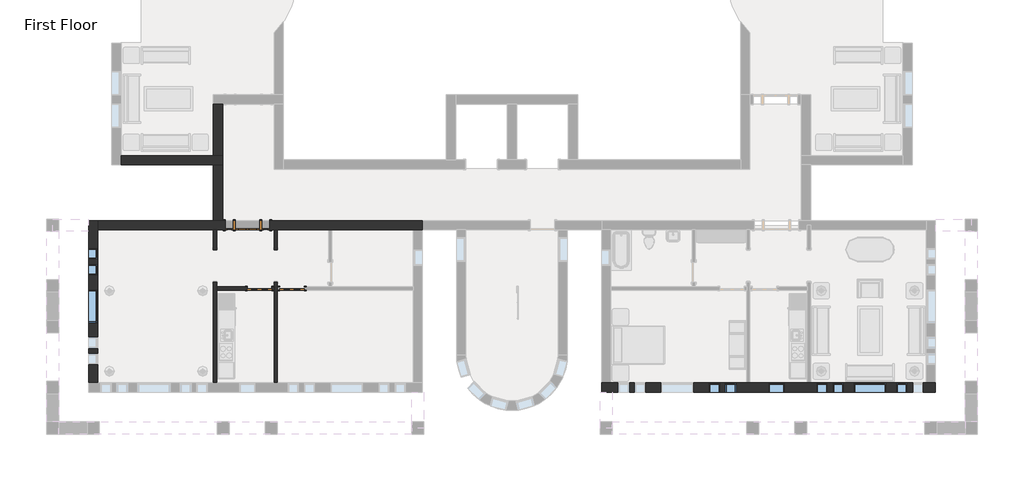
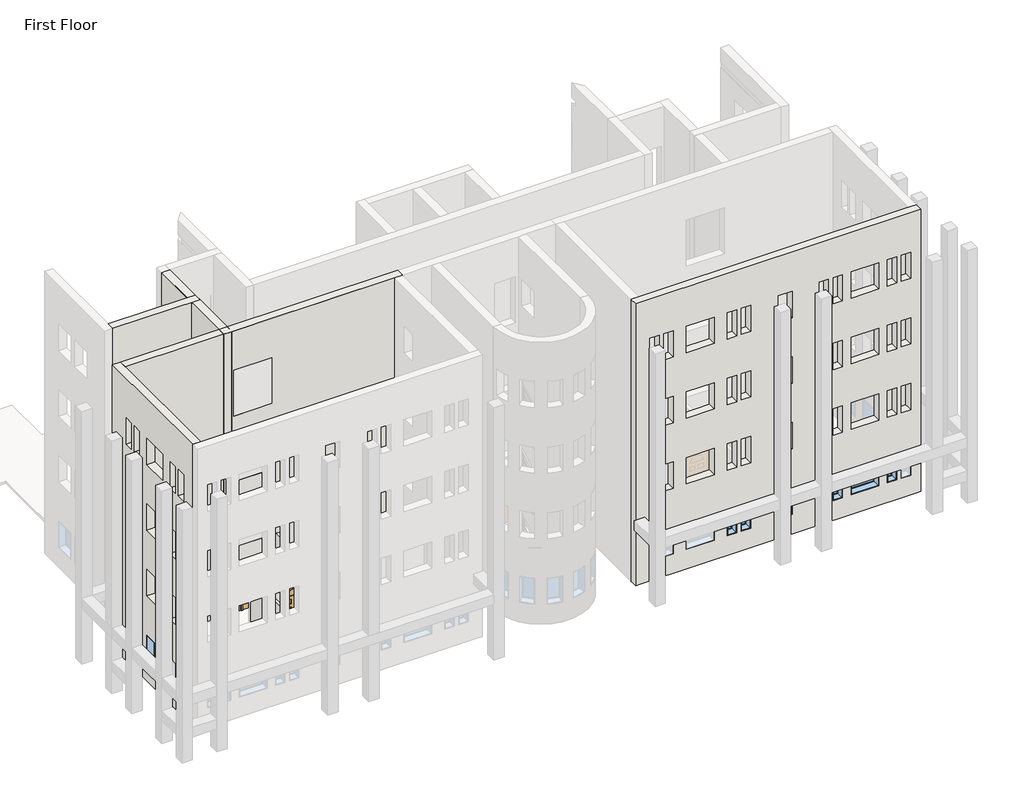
# One storey, part 3 of 24: 10 windows, 9 walls, 3 doors.
"""IFC4 building model written with IfcOpenShell, lengths in millimetres."""

from ifc_helpers import new_model, si_unit, frame, origin, place, context, project, spatial, polyline, outline, extrude, faceted_brep, transform, mapped, element, save
from components import door_829da954, door_2e3b4da2, door_dba5aa2e, window_da97879f, window_d61ef850, window_ed80354a, window_6eb97611, window_d89bf842

model = new_model("IFC4")

# Units and contexts
model_context = context("Model", 3, world=origin())
ifc_project = project(units=[si_unit("LENGTHUNIT", "METRE", prefix="MILLI")], contexts=[model_context])

# Site, building, storey
site = spatial("IfcSite", under=ifc_project)
building = spatial("IfcBuilding", under=site)
storey = spatial("IfcBuildingStorey", under=building, Name="First Floor", Elevation=0.0)

# Doors
placement = place(None, origin())
door_shape = door_829da954(model_context)
element("IfcDoor", 1, ObjectType="Single-Decorative 2 : 36\" x 84\"", at=placement, inside=storey, context=model_context, shape_type="MappedRepresentation", body=[
    mapped(door_shape, transform((-24420.4839563, -30331.8808133, 0.0), x_axis=(1.0, 0.0, 0.0), y_axis=(0.0, 1.0, 0.0), z_axis=(0.0, 0.0, 1.0))),
])
door_2_shape = door_2e3b4da2(model_context)
element("IfcDoor", 2, ObjectType="Single-Decorative 2 : 36\" x 84\"", at=placement, inside=storey, context=model_context, shape_type="MappedRepresentation", body=[
    mapped(door_2_shape, transform((-23201.2839563, -30331.8808133, 0.0), x_axis=(-1.0, 0.0, 0.0), y_axis=(0.0, -1.0, 0.0), z_axis=(0.0, 0.0, 1.0))),
])
door_3_shape = door_dba5aa2e(model_context)
element("IfcDoor", 3, ObjectType="Single-Raised Panel with Sidelights : 36\" x 84\"", at=placement, inside=storey, context=model_context, shape_type="MappedRepresentation", body=[
    mapped(door_3_shape, transform((-24877.6839563, -27958.5683133, 0.0), x_axis=(1.0, 0.0, 0.0), y_axis=(0.0, 1.0, 0.0), z_axis=(0.0, 0.0, 1.0))),
])

# Walls
element("IfcWall", 4, ObjectType="Exterior - Brick on Mtl. Stud", at=placement, inside=storey, context=model_context, shape_type="Brep", body=[
    faceted_brep([(-11569.6714563, -34230.7808133, 0.0), (-11382.3464563, -34230.7808133, 0.0), (787.4285437, -34230.7808133, 0.0), (974.7535437, -34230.7808133, 0.0), (974.7535437, -34230.7808133, 13106.4), (-11569.6714563, -34230.7808133, 13106.4), (-5297.4589563, -34230.7808133, 2133.6), (-4687.8589563, -34230.7808133, 2133.6), (-4687.8589563, -34230.7808133, 914.4), (-5297.4589563, -34230.7808133, 914.4), (-9336.0589563, -34230.7808133, 2133.6), (-8116.8589563, -34230.7808133, 2133.6), (-8116.8589563, -34230.7808133, 914.4), (-9336.0589563, -34230.7808133, 914.4), (-2097.0589563, -34230.7808133, 2133.6), (-877.8589563, -34230.7808133, 2133.6), (-877.8589563, -34230.7808133, 914.4), (-2097.0589563, -34230.7808133, 914.4), (-10936.2589563, -34230.7808133, 2133.6), (-10529.8589563, -34230.7808133, 2133.6), (-10529.8589563, -34230.7808133, 914.4), (-10936.2589563, -34230.7808133, 914.4), (-10326.6589563, -34230.7808133, 2133.6), (-9920.2589563, -34230.7808133, 2133.6), (-9920.2589563, -34230.7808133, 914.4), (-10326.6589563, -34230.7808133, 914.4), (-6516.6589563, -34230.7808133, 2133.6), (-6516.6589563, -34230.7808133, 914.4), (-6923.0589563, -34230.7808133, 914.4), (-6923.0589563, -34230.7808133, 2133.6), (-7126.2589563, -34230.7808133, 2133.6), (-7126.2589563, -34230.7808133, 914.4), (-7532.6589563, -34230.7808133, 914.4), (-7532.6589563, -34230.7808133, 2133.6), (-3494.0589563, -34230.7808133, 2133.6), (-3087.6589563, -34230.7808133, 2133.6), (-3087.6589563, -34230.7808133, 914.4), (-3494.0589563, -34230.7808133, 914.4), (-2884.4589563, -34230.7808133, 2133.6), (-2478.0589563, -34230.7808133, 2133.6), (-2478.0589563, -34230.7808133, 914.4), (-2884.4589563, -34230.7808133, 914.4), (519.1410437, -34230.7808133, 2133.6), (519.1410437, -34230.7808133, 914.4), (112.7410437, -34230.7808133, 914.4), (112.7410437, -34230.7808133, 2133.6), (-90.4589563, -34230.7808133, 2133.6), (-90.4589563, -34230.7808133, 914.4), (-496.8589563, -34230.7808133, 914.4), (-496.8589563, -34230.7808133, 2133.6), (-5297.4589563, -34230.7808133, 11277.6), (-4687.8589563, -34230.7808133, 11277.6), (-4687.8589563, -34230.7808133, 10058.4), (-5297.4589563, -34230.7808133, 10058.4), (-9336.0589563, -34230.7808133, 11277.6), (-8116.8589563, -34230.7808133, 11277.6), (-8116.8589563, -34230.7808133, 10058.4), (-9336.0589563, -34230.7808133, 10058.4), (-2097.0589563, -34230.7808133, 11277.6), (-877.8589563, -34230.7808133, 11277.6), (-877.8589563, -34230.7808133, 10058.4), (-2097.0589563, -34230.7808133, 10058.4), (-10936.2589563, -34230.7808133, 11277.6), (-10529.8589563, -34230.7808133, 11277.6), (-10529.8589563, -34230.7808133, 10058.4), (-10936.2589563, -34230.7808133, 10058.4), (-10326.6589563, -34230.7808133, 11277.6), (-9920.2589563, -34230.7808133, 11277.6), (-9920.2589563, -34230.7808133, 10058.4), (-10326.6589563, -34230.7808133, 10058.4), (-6516.6589563, -34230.7808133, 11277.6), (-6516.6589563, -34230.7808133, 10058.4), (-6923.0589563, -34230.7808133, 10058.4), (-6923.0589563, -34230.7808133, 11277.6), (-7126.2589563, -34230.7808133, 11277.6), (-7126.2589563, -34230.7808133, 10058.4), (-7532.6589563, -34230.7808133, 10058.4), (-7532.6589563, -34230.7808133, 11277.6), (-3494.0589563, -34230.7808133, 11277.6), (-3087.6589563, -34230.7808133, 11277.6), (-3087.6589563, -34230.7808133, 10058.4), (-3494.0589563, -34230.7808133, 10058.4), (-2884.4589563, -34230.7808133, 11277.6), (-2478.0589563, -34230.7808133, 11277.6), (-2478.0589563, -34230.7808133, 10058.4), (-2884.4589563, -34230.7808133, 10058.4), (519.1410437, -34230.7808133, 11277.6), (519.1410437, -34230.7808133, 10058.4), (112.7410437, -34230.7808133, 10058.4), (112.7410437, -34230.7808133, 11277.6), (-90.4589563, -34230.7808133, 11277.6), (-90.4589563, -34230.7808133, 10058.4), (-496.8589563, -34230.7808133, 10058.4), (-496.8589563, -34230.7808133, 11277.6), (-5297.4589563, -34230.7808133, 5181.6), (-4687.8589563, -34230.7808133, 5181.6), (-4687.8589563, -34230.7808133, 3962.4), (-5297.4589563, -34230.7808133, 3962.4), (-9336.0589563, -34230.7808133, 5181.6), (-8116.8589563, -34230.7808133, 5181.6), (-8116.8589563, -34230.7808133, 3962.4), (-9336.0589563, -34230.7808133, 3962.4), (-2097.0589563, -34230.7808133, 5181.6), (-877.8589563, -34230.7808133, 5181.6), (-877.8589563, -34230.7808133, 3962.4), (-2097.0589563, -34230.7808133, 3962.4), (-10936.2589563, -34230.7808133, 5181.6), (-10529.8589563, -34230.7808133, 5181.6), (-10529.8589563, -34230.7808133, 3962.4), (-10936.2589563, -34230.7808133, 3962.4), (-10326.6589563, -34230.7808133, 5181.6), (-9920.2589563, -34230.7808133, 5181.6), (-9920.2589563, -34230.7808133, 3962.4), (-10326.6589563, -34230.7808133, 3962.4), (-6516.6589563, -34230.7808133, 5181.6), (-6516.6589563, -34230.7808133, 3962.4), (-6923.0589563, -34230.7808133, 3962.4), (-6923.0589563, -34230.7808133, 5181.6), (-7126.2589563, -34230.7808133, 5181.6), (-7126.2589563, -34230.7808133, 3962.4), (-7532.6589563, -34230.7808133, 3962.4), (-7532.6589563, -34230.7808133, 5181.6), (-3494.0589563, -34230.7808133, 5181.6), (-3087.6589563, -34230.7808133, 5181.6), (-3087.6589563, -34230.7808133, 3962.4), (-3494.0589563, -34230.7808133, 3962.4), (-2884.4589563, -34230.7808133, 5181.6), (-2478.0589563, -34230.7808133, 5181.6), (-2478.0589563, -34230.7808133, 3962.4), (-2884.4589563, -34230.7808133, 3962.4), (519.1410437, -34230.7808133, 5181.6), (519.1410437, -34230.7808133, 3962.4), (112.7410437, -34230.7808133, 3962.4), (112.7410437, -34230.7808133, 5181.6), (-90.4589563, -34230.7808133, 5181.6), (-90.4589563, -34230.7808133, 3962.4), (-496.8589563, -34230.7808133, 3962.4), (-496.8589563, -34230.7808133, 5181.6), (-5297.4589563, -34230.7808133, 8229.6), (-4687.8589563, -34230.7808133, 8229.6), (-4687.8589563, -34230.7808133, 7010.4), (-5297.4589563, -34230.7808133, 7010.4), (-9336.0589563, -34230.7808133, 8229.6), (-8116.8589563, -34230.7808133, 8229.6), (-8116.8589563, -34230.7808133, 7010.4), (-9336.0589563, -34230.7808133, 7010.4), (-2097.0589563, -34230.7808133, 8229.6), (-877.8589563, -34230.7808133, 8229.6), (-877.8589563, -34230.7808133, 7010.4), (-2097.0589563, -34230.7808133, 7010.4), (-10936.2589563, -34230.7808133, 8229.6), (-10529.8589563, -34230.7808133, 8229.6), (-10529.8589563, -34230.7808133, 7010.4), (-10936.2589563, -34230.7808133, 7010.4), (-10326.6589563, -34230.7808133, 8229.6), (-9920.2589563, -34230.7808133, 8229.6), (-9920.2589563, -34230.7808133, 7010.4), (-10326.6589563, -34230.7808133, 7010.4), (-6516.6589563, -34230.7808133, 8229.6), (-6516.6589563, -34230.7808133, 7010.4), (-6923.0589563, -34230.7808133, 7010.4), (-6923.0589563, -34230.7808133, 8229.6), (-7126.2589563, -34230.7808133, 8229.6), (-7126.2589563, -34230.7808133, 7010.4), (-7532.6589563, -34230.7808133, 7010.4), (-7532.6589563, -34230.7808133, 8229.6), (-3494.0589563, -34230.7808133, 8229.6), (-3087.6589563, -34230.7808133, 8229.6), (-3087.6589563, -34230.7808133, 7010.4), (-3494.0589563, -34230.7808133, 7010.4), (-2884.4589563, -34230.7808133, 8229.6), (-2478.0589563, -34230.7808133, 8229.6), (-2478.0589563, -34230.7808133, 7010.4), (-2884.4589563, -34230.7808133, 7010.4), (519.1410437, -34230.7808133, 8229.6), (519.1410437, -34230.7808133, 7010.4), (112.7410437, -34230.7808133, 7010.4), (112.7410437, -34230.7808133, 8229.6), (-90.4589563, -34230.7808133, 8229.6), (-90.4589563, -34230.7808133, 7010.4), (-496.8589563, -34230.7808133, 7010.4), (-496.8589563, -34230.7808133, 8229.6), (-11569.6714563, -33878.3558133, 0.0), (-11569.6714563, -33878.3558133, 13106.4), (-11217.2464563, -33878.3558133, 13106.4), (622.3285437, -33878.3558133, 13106.4), (974.7535437, -33878.3558133, 13106.4), (974.7535437, -33878.3558133, 0.0), (787.4285437, -33878.3558133, 0.0), (622.3285437, -33878.3558133, 0.0), (-3709.9589563, -33878.3558133, 0.0), (-3836.9589563, -33878.3558133, 0.0), (-5995.9589563, -33878.3558133, 0.0), (-6122.9589563, -33878.3558133, 0.0), (-11217.2464563, -33878.3558133, 0.0), (-11382.3464563, -33878.3558133, 0.0), (-5297.4589563, -33878.3558133, 2133.6), (-5297.4589563, -33878.3558133, 914.4), (-4687.8589563, -33878.3558133, 914.4), (-4687.8589563, -33878.3558133, 2133.6), (-9336.0589563, -33878.3558133, 2133.6), (-9336.0589563, -33878.3558133, 914.4), (-8116.8589563, -33878.3558133, 914.4), (-8116.8589563, -33878.3558133, 2133.6), (-2097.0589563, -33878.3558133, 2133.6), (-2097.0589563, -33878.3558133, 914.4), (-877.8589563, -33878.3558133, 914.4), (-877.8589563, -33878.3558133, 2133.6), (-10936.2589563, -33878.3558133, 2133.6), (-10936.2589563, -33878.3558133, 914.4), (-10529.8589563, -33878.3558133, 914.4), (-10529.8589563, -33878.3558133, 2133.6), (-10326.6589563, -33878.3558133, 2133.6), (-10326.6589563, -33878.3558133, 914.4), (-9920.2589563, -33878.3558133, 914.4), (-9920.2589563, -33878.3558133, 2133.6), (-6516.6589563, -33878.3558133, 2133.6), (-6923.0589563, -33878.3558133, 2133.6), (-6923.0589563, -33878.3558133, 914.4), (-6516.6589563, -33878.3558133, 914.4), (-7126.2589563, -33878.3558133, 2133.6), (-7532.6589563, -33878.3558133, 2133.6), (-7532.6589563, -33878.3558133, 914.4), (-7126.2589563, -33878.3558133, 914.4), (-3494.0589563, -33878.3558133, 2133.6), (-3494.0589563, -33878.3558133, 914.4), (-3087.6589563, -33878.3558133, 914.4), (-3087.6589563, -33878.3558133, 2133.6), (-2884.4589563, -33878.3558133, 2133.6), (-2884.4589563, -33878.3558133, 914.4), (-2478.0589563, -33878.3558133, 914.4), (-2478.0589563, -33878.3558133, 2133.6), (519.1410437, -33878.3558133, 2133.6), (112.7410437, -33878.3558133, 2133.6), (112.7410437, -33878.3558133, 914.4), (519.1410437, -33878.3558133, 914.4), (-90.4589563, -33878.3558133, 2133.6), (-496.8589563, -33878.3558133, 2133.6), (-496.8589563, -33878.3558133, 914.4), (-90.4589563, -33878.3558133, 914.4), (-5297.4589563, -33878.3558133, 11277.6), (-5297.4589563, -33878.3558133, 10058.4), (-4687.8589563, -33878.3558133, 10058.4), (-4687.8589563, -33878.3558133, 11277.6), (-9336.0589563, -33878.3558133, 11277.6), (-9336.0589563, -33878.3558133, 10058.4), (-8116.8589563, -33878.3558133, 10058.4), (-8116.8589563, -33878.3558133, 11277.6), (-2097.0589563, -33878.3558133, 11277.6), (-2097.0589563, -33878.3558133, 10058.4), (-877.8589563, -33878.3558133, 10058.4), (-877.8589563, -33878.3558133, 11277.6), (-10936.2589563, -33878.3558133, 11277.6), (-10936.2589563, -33878.3558133, 10058.4), (-10529.8589563, -33878.3558133, 10058.4), (-10529.8589563, -33878.3558133, 11277.6), (-10326.6589563, -33878.3558133, 11277.6), (-10326.6589563, -33878.3558133, 10058.4), (-9920.2589563, -33878.3558133, 10058.4), (-9920.2589563, -33878.3558133, 11277.6), (-6516.6589563, -33878.3558133, 11277.6), (-6923.0589563, -33878.3558133, 11277.6), (-6923.0589563, -33878.3558133, 10058.4), (-6516.6589563, -33878.3558133, 10058.4), (-7126.2589563, -33878.3558133, 11277.6), (-7532.6589563, -33878.3558133, 11277.6), (-7532.6589563, -33878.3558133, 10058.4), (-7126.2589563, -33878.3558133, 10058.4), (-3494.0589563, -33878.3558133, 11277.6), (-3494.0589563, -33878.3558133, 10058.4), (-3087.6589563, -33878.3558133, 10058.4), (-3087.6589563, -33878.3558133, 11277.6), (-2884.4589563, -33878.3558133, 11277.6), (-2884.4589563, -33878.3558133, 10058.4), (-2478.0589563, -33878.3558133, 10058.4), (-2478.0589563, -33878.3558133, 11277.6), (519.1410437, -33878.3558133, 11277.6), (112.7410437, -33878.3558133, 11277.6), (112.7410437, -33878.3558133, 10058.4), (519.1410437, -33878.3558133, 10058.4), (-90.4589563, -33878.3558133, 11277.6), (-496.8589563, -33878.3558133, 11277.6), (-496.8589563, -33878.3558133, 10058.4), (-90.4589563, -33878.3558133, 10058.4), (-5297.4589563, -33878.3558133, 5181.6), (-5297.4589563, -33878.3558133, 3962.4), (-4687.8589563, -33878.3558133, 3962.4), (-4687.8589563, -33878.3558133, 5181.6), (-9336.0589563, -33878.3558133, 5181.6), (-9336.0589563, -33878.3558133, 3962.4), (-8116.8589563, -33878.3558133, 3962.4), (-8116.8589563, -33878.3558133, 5181.6), (-2097.0589563, -33878.3558133, 5181.6), (-2097.0589563, -33878.3558133, 3962.4), (-877.8589563, -33878.3558133, 3962.4), (-877.8589563, -33878.3558133, 5181.6), (-10936.2589563, -33878.3558133, 5181.6), (-10936.2589563, -33878.3558133, 3962.4), (-10529.8589563, -33878.3558133, 3962.4), (-10529.8589563, -33878.3558133, 5181.6), (-10326.6589563, -33878.3558133, 5181.6), (-10326.6589563, -33878.3558133, 3962.4), (-9920.2589563, -33878.3558133, 3962.4), (-9920.2589563, -33878.3558133, 5181.6), (-6516.6589563, -33878.3558133, 5181.6), (-6923.0589563, -33878.3558133, 5181.6), (-6923.0589563, -33878.3558133, 3962.4), (-6516.6589563, -33878.3558133, 3962.4), (-7126.2589563, -33878.3558133, 5181.6), (-7532.6589563, -33878.3558133, 5181.6), (-7532.6589563, -33878.3558133, 3962.4), (-7126.2589563, -33878.3558133, 3962.4), (-3494.0589563, -33878.3558133, 5181.6), (-3494.0589563, -33878.3558133, 3962.4), (-3087.6589563, -33878.3558133, 3962.4), (-3087.6589563, -33878.3558133, 5181.6), (-2884.4589563, -33878.3558133, 5181.6), (-2884.4589563, -33878.3558133, 3962.4), (-2478.0589563, -33878.3558133, 3962.4), (-2478.0589563, -33878.3558133, 5181.6), (519.1410437, -33878.3558133, 5181.6), (112.7410437, -33878.3558133, 5181.6), (112.7410437, -33878.3558133, 3962.4), (519.1410437, -33878.3558133, 3962.4), (-90.4589563, -33878.3558133, 5181.6), (-496.8589563, -33878.3558133, 5181.6), (-496.8589563, -33878.3558133, 3962.4), (-90.4589563, -33878.3558133, 3962.4), (-5297.4589563, -33878.3558133, 8229.6), (-5297.4589563, -33878.3558133, 7010.4), (-4687.8589563, -33878.3558133, 7010.4), (-4687.8589563, -33878.3558133, 8229.6), (-9336.0589563, -33878.3558133, 8229.6), (-9336.0589563, -33878.3558133, 7010.4), (-8116.8589563, -33878.3558133, 7010.4), (-8116.8589563, -33878.3558133, 8229.6), (-2097.0589563, -33878.3558133, 8229.6), (-2097.0589563, -33878.3558133, 7010.4), (-877.8589563, -33878.3558133, 7010.4), (-877.8589563, -33878.3558133, 8229.6), (-10936.2589563, -33878.3558133, 8229.6), (-10936.2589563, -33878.3558133, 7010.4), (-10529.8589563, -33878.3558133, 7010.4), (-10529.8589563, -33878.3558133, 8229.6), (-10326.6589563, -33878.3558133, 8229.6), (-10326.6589563, -33878.3558133, 7010.4), (-9920.2589563, -33878.3558133, 7010.4), (-9920.2589563, -33878.3558133, 8229.6), (-6516.6589563, -33878.3558133, 8229.6), (-6923.0589563, -33878.3558133, 8229.6), (-6923.0589563, -33878.3558133, 7010.4), (-6516.6589563, -33878.3558133, 7010.4), (-7126.2589563, -33878.3558133, 8229.6), (-7532.6589563, -33878.3558133, 8229.6), (-7532.6589563, -33878.3558133, 7010.4), (-7126.2589563, -33878.3558133, 7010.4), (-3494.0589563, -33878.3558133, 8229.6), (-3494.0589563, -33878.3558133, 7010.4), (-3087.6589563, -33878.3558133, 7010.4), (-3087.6589563, -33878.3558133, 8229.6), (-2884.4589563, -33878.3558133, 8229.6), (-2884.4589563, -33878.3558133, 7010.4), (-2478.0589563, -33878.3558133, 7010.4), (-2478.0589563, -33878.3558133, 8229.6), (519.1410437, -33878.3558133, 8229.6), (112.7410437, -33878.3558133, 8229.6), (112.7410437, -33878.3558133, 7010.4), (519.1410437, -33878.3558133, 7010.4), (-90.4589563, -33878.3558133, 8229.6), (-496.8589563, -33878.3558133, 8229.6), (-496.8589563, -33878.3558133, 7010.4), (-90.4589563, -33878.3558133, 7010.4), (974.7535437, -34043.4558133, 0.0), (-11569.6714563, -34043.4558133, 0.0), (-11382.3464563, -34043.4558133, 0.0), (787.4285437, -34043.4558133, 0.0)], [[[0, 1, 2, 3, 4, 5], [6, 7, 8, 9], [10, 11, 12, 13], [14, 15, 16, 17], [18, 19, 20, 21], [22, 23, 24, 25], [26, 27, 28, 29], [30, 31, 32, 33], [34, 35, 36, 37], [38, 39, 40, 41], [42, 43, 44, 45], [46, 47, 48, 49], [50, 51, 52, 53], [54, 55, 56, 57], [58, 59, 60, 61], [62, 63, 64, 65], [66, 67, 68, 69], [70, 71, 72, 73], [74, 75, 76, 77], [78, 79, 80, 81], [82, 83, 84, 85], [86, 87, 88, 89], [90, 91, 92, 93], [94, 95, 96, 97], [98, 99, 100, 101], [102, 103, 104, 105], [106, 107, 108, 109], [110, 111, 112, 113], [114, 115, 116, 117], [118, 119, 120, 121], [122, 123, 124, 125], [126, 127, 128, 129], [130, 131, 132, 133], [134, 135, 136, 137], [138, 139, 140, 141], [142, 143, 144, 145], [146, 147, 148, 149], [150, 151, 152, 153], [154, 155, 156, 157], [158, 159, 160, 161], [162, 163, 164, 165], [166, 167, 168, 169], [170, 171, 172, 173], [174, 175, 176, 177], [178, 179, 180, 181]], [[182, 183, 184, 185, 186, 187, 188, 189, 190, 191, 192, 193, 194, 195], [196, 197, 198, 199], [200, 201, 202, 203], [204, 205, 206, 207], [208, 209, 210, 211], [212, 213, 214, 215], [216, 217, 218, 219], [220, 221, 222, 223], [224, 225, 226, 227], [228, 229, 230, 231], [232, 233, 234, 235], [236, 237, 238, 239], [240, 241, 242, 243], [244, 245, 246, 247], [248, 249, 250, 251], [252, 253, 254, 255], [256, 257, 258, 259], [260, 261, 262, 263], [264, 265, 266, 267], [268, 269, 270, 271], [272, 273, 274, 275], [276, 277, 278, 279], [280, 281, 282, 283], [284, 285, 286, 287], [288, 289, 290, 291], [292, 293, 294, 295], [296, 297, 298, 299], [300, 301, 302, 303], [304, 305, 306, 307], [308, 309, 310, 311], [312, 313, 314, 315], [316, 317, 318, 319], [320, 321, 322, 323], [324, 325, 326, 327], [328, 329, 330, 331], [332, 333, 334, 335], [336, 337, 338, 339], [340, 341, 342, 343], [344, 345, 346, 347], [348, 349, 350, 351], [352, 353, 354, 355], [356, 357, 358, 359], [360, 361, 362, 363], [364, 365, 366, 367], [368, 369, 370, 371]], [[5, 4, 186, 185, 184, 183]], [[4, 3, 372, 187, 186]], [[0, 5, 183, 182, 373]], [[2, 1, 374, 375]], [[373, 182, 195, 374]], [[1, 0, 373, 374]], [[375, 188, 187, 372]], [[3, 2, 375, 372]], [[374, 195, 194, 193, 192, 191, 190, 189, 188, 375]], [[197, 196, 6, 9]], [[198, 197, 9, 8]], [[199, 198, 8, 7]], [[196, 199, 7, 6]], [[201, 200, 10, 13]], [[202, 201, 13, 12]], [[203, 202, 12, 11]], [[200, 203, 11, 10]], [[205, 204, 14, 17]], [[206, 205, 17, 16]], [[207, 206, 16, 15]], [[204, 207, 15, 14]], [[209, 208, 18, 21]], [[210, 209, 21, 20]], [[211, 210, 20, 19]], [[208, 211, 19, 18]], [[213, 212, 22, 25]], [[214, 213, 25, 24]], [[215, 214, 24, 23]], [[212, 215, 23, 22]], [[27, 26, 216, 219]], [[28, 27, 219, 218]], [[29, 28, 218, 217]], [[26, 29, 217, 216]], [[31, 30, 220, 223]], [[32, 31, 223, 222]], [[33, 32, 222, 221]], [[30, 33, 221, 220]], [[225, 224, 34, 37]], [[226, 225, 37, 36]], [[227, 226, 36, 35]], [[224, 227, 35, 34]], [[229, 228, 38, 41]], [[230, 229, 41, 40]], [[231, 230, 40, 39]], [[228, 231, 39, 38]], [[43, 42, 232, 235]], [[44, 43, 235, 234]], [[45, 44, 234, 233]], [[42, 45, 233, 232]], [[47, 46, 236, 239]], [[48, 47, 239, 238]], [[49, 48, 238, 237]], [[46, 49, 237, 236]], [[241, 240, 50, 53]], [[242, 241, 53, 52]], [[243, 242, 52, 51]], [[240, 243, 51, 50]], [[245, 244, 54, 57]], [[246, 245, 57, 56]], [[247, 246, 56, 55]], [[244, 247, 55, 54]], [[249, 248, 58, 61]], [[250, 249, 61, 60]], [[251, 250, 60, 59]], [[248, 251, 59, 58]], [[253, 252, 62, 65]], [[254, 253, 65, 64]], [[255, 254, 64, 63]], [[252, 255, 63, 62]], [[257, 256, 66, 69]], [[258, 257, 69, 68]], [[259, 258, 68, 67]], [[256, 259, 67, 66]], [[71, 70, 260, 263]], [[72, 71, 263, 262]], [[73, 72, 262, 261]], [[70, 73, 261, 260]], [[75, 74, 264, 267]], [[76, 75, 267, 266]], [[77, 76, 266, 265]], [[74, 77, 265, 264]], [[269, 268, 78, 81]], [[270, 269, 81, 80]], [[271, 270, 80, 79]], [[268, 271, 79, 78]], [[273, 272, 82, 85]], [[274, 273, 85, 84]], [[275, 274, 84, 83]], [[272, 275, 83, 82]], [[87, 86, 276, 279]], [[88, 87, 279, 278]], [[89, 88, 278, 277]], [[86, 89, 277, 276]], [[91, 90, 280, 283]], [[92, 91, 283, 282]], [[93, 92, 282, 281]], [[90, 93, 281, 280]], [[285, 284, 94, 97]], [[286, 285, 97, 96]], [[287, 286, 96, 95]], [[284, 287, 95, 94]], [[289, 288, 98, 101]], [[290, 289, 101, 100]], [[291, 290, 100, 99]], [[288, 291, 99, 98]], [[293, 292, 102, 105]], [[294, 293, 105, 104]], [[295, 294, 104, 103]], [[292, 295, 103, 102]], [[297, 296, 106, 109]], [[298, 297, 109, 108]], [[299, 298, 108, 107]], [[296, 299, 107, 106]], [[301, 300, 110, 113]], [[302, 301, 113, 112]], [[303, 302, 112, 111]], [[300, 303, 111, 110]], [[115, 114, 304, 307]], [[116, 115, 307, 306]], [[117, 116, 306, 305]], [[114, 117, 305, 304]], [[119, 118, 308, 311]], [[120, 119, 311, 310]], [[121, 120, 310, 309]], [[118, 121, 309, 308]], [[313, 312, 122, 125]], [[314, 313, 125, 124]], [[315, 314, 124, 123]], [[312, 315, 123, 122]], [[317, 316, 126, 129]], [[318, 317, 129, 128]], [[319, 318, 128, 127]], [[316, 319, 127, 126]], [[131, 130, 320, 323]], [[132, 131, 323, 322]], [[133, 132, 322, 321]], [[130, 133, 321, 320]], [[135, 134, 324, 327]], [[136, 135, 327, 326]], [[137, 136, 326, 325]], [[134, 137, 325, 324]], [[329, 328, 138, 141]], [[330, 329, 141, 140]], [[331, 330, 140, 139]], [[328, 331, 139, 138]], [[333, 332, 142, 145]], [[334, 333, 145, 144]], [[335, 334, 144, 143]], [[332, 335, 143, 142]], [[337, 336, 146, 149]], [[338, 337, 149, 148]], [[339, 338, 148, 147]], [[336, 339, 147, 146]], [[341, 340, 150, 153]], [[342, 341, 153, 152]], [[343, 342, 152, 151]], [[340, 343, 151, 150]], [[345, 344, 154, 157]], [[346, 345, 157, 156]], [[347, 346, 156, 155]], [[344, 347, 155, 154]], [[159, 158, 348, 351]], [[160, 159, 351, 350]], [[161, 160, 350, 349]], [[158, 161, 349, 348]], [[163, 162, 352, 355]], [[164, 163, 355, 354]], [[165, 164, 354, 353]], [[162, 165, 353, 352]], [[357, 356, 166, 169]], [[358, 357, 169, 168]], [[359, 358, 168, 167]], [[356, 359, 167, 166]], [[361, 360, 170, 173]], [[362, 361, 173, 172]], [[363, 362, 172, 171]], [[360, 363, 171, 170]], [[175, 174, 364, 367]], [[176, 175, 367, 366]], [[177, 176, 366, 365]], [[174, 177, 365, 364]], [[179, 178, 368, 371]], [[180, 179, 371, 370]], [[181, 180, 370, 369]], [[178, 181, 369, 368]]]),
])
element("IfcWall", 5, ObjectType="Exterior - Brick on Mtl. Stud", at=placement, inside=storey, context=model_context, shape_type="Brep", body=[
    faceted_brep([(-26160.3839563, -23410.3808133, 0.0), (-26160.3839563, -28134.7808133, 0.0), (-26160.3839563, -28134.7808133, 3048.0), (-26160.3839563, -28134.7808133, 6096.0), (-26160.3839563, -28134.7808133, 9144.0), (-26160.3839563, -28134.7808133, 12192.0), (-26160.3839563, -28134.7808133, 13106.4), (-26160.3839563, -23410.3808133, 13106.4), (-25807.9589563, -23410.3808133, 0.0), (-25807.9589563, -23410.3808133, 13106.4), (-25807.9589563, -27782.3558133, 13106.4), (-25807.9589563, -28134.7808133, 13106.4), (-25807.9589563, -28134.7808133, 0.0), (-25807.9589563, -27782.3558133, 0.0), (-26033.3839563, -28134.7808133, 0.0)], [[[0, 1, 2, 3, 4, 5, 6, 7]], [[8, 9, 10, 11, 12, 13]], [[1, 0, 8, 13, 12, 14]], [[7, 6, 11, 10, 9]], [[1, 14, 12, 11, 6, 5, 4, 3, 2]], [[0, 7, 9, 8]]]),
])
element("IfcWall", 6, ObjectType="Exterior - Brick on Mtl. Stud", at=placement, inside=storey, context=model_context, shape_type="Brep", body=[
    faceted_brep([(-30492.6714563, -33878.3558133, 0.0), (-30492.6714563, -28134.7808133, 0.0), (-30492.6714563, -27969.6808133, 0.0), (-30492.6714563, -27782.3558133, 0.0), (-30492.6714563, -27782.3558133, 13106.4), (-30492.6714563, -28134.7808133, 13106.4), (-30492.6714563, -33878.3558133, 13106.4), (-30492.6714563, -31616.1683133, 2133.6), (-30492.6714563, -30396.9683133, 2133.6), (-30492.6714563, -30396.9683133, 914.4), (-30492.6714563, -31616.1683133, 914.4), (-30492.6714563, -33190.9683133, 2133.6), (-30492.6714563, -32784.5683133, 2133.6), (-30492.6714563, -32784.5683133, 914.4), (-30492.6714563, -33190.9683133, 914.4), (-30492.6714563, -32581.3683133, 2133.6), (-30492.6714563, -32174.9683133, 2133.6), (-30492.6714563, -32174.9683133, 914.4), (-30492.6714563, -32581.3683133, 914.4), (-30492.6714563, -28822.1683133, 2133.6), (-30492.6714563, -28822.1683133, 914.4), (-30492.6714563, -29228.5683133, 914.4), (-30492.6714563, -29228.5683133, 2133.6), (-30492.6714563, -29431.7683133, 2133.6), (-30492.6714563, -29431.7683133, 914.4), (-30492.6714563, -29838.1683133, 914.4), (-30492.6714563, -29838.1683133, 2133.6), (-30492.6714563, -31616.1683133, 11277.6), (-30492.6714563, -30396.9683133, 11277.6), (-30492.6714563, -30396.9683133, 10058.4), (-30492.6714563, -31616.1683133, 10058.4), (-30492.6714563, -33190.9683133, 11277.6), (-30492.6714563, -32784.5683133, 11277.6), (-30492.6714563, -32784.5683133, 10058.4), (-30492.6714563, -33190.9683133, 10058.4), (-30492.6714563, -32581.3683133, 11277.6), (-30492.6714563, -32174.9683133, 11277.6), (-30492.6714563, -32174.9683133, 10058.4), (-30492.6714563, -32581.3683133, 10058.4), (-30492.6714563, -28822.1683133, 11277.6), (-30492.6714563, -28822.1683133, 10058.4), (-30492.6714563, -29228.5683133, 10058.4), (-30492.6714563, -29228.5683133, 11277.6), (-30492.6714563, -29431.7683133, 11277.6), (-30492.6714563, -29431.7683133, 10058.4), (-30492.6714563, -29838.1683133, 10058.4), (-30492.6714563, -29838.1683133, 11277.6), (-30492.6714563, -31616.1683133, 5181.6), (-30492.6714563, -30396.9683133, 5181.6), (-30492.6714563, -30396.9683133, 3962.4), (-30492.6714563, -31616.1683133, 3962.4), (-30492.6714563, -33190.9683133, 5181.6), (-30492.6714563, -32784.5683133, 5181.6), (-30492.6714563, -32784.5683133, 3962.4), (-30492.6714563, -33190.9683133, 3962.4), (-30492.6714563, -32581.3683133, 5181.6), (-30492.6714563, -32174.9683133, 5181.6), (-30492.6714563, -32174.9683133, 3962.4), (-30492.6714563, -32581.3683133, 3962.4), (-30492.6714563, -28822.1683133, 5181.6), (-30492.6714563, -28822.1683133, 3962.4), (-30492.6714563, -29228.5683133, 3962.4), (-30492.6714563, -29228.5683133, 5181.6), (-30492.6714563, -29431.7683133, 5181.6), (-30492.6714563, -29431.7683133, 3962.4), (-30492.6714563, -29838.1683133, 3962.4), (-30492.6714563, -29838.1683133, 5181.6), (-30492.6714563, -31616.1683133, 8229.6), (-30492.6714563, -30396.9683133, 8229.6), (-30492.6714563, -30396.9683133, 7010.4), (-30492.6714563, -31616.1683133, 7010.4), (-30492.6714563, -33190.9683133, 8229.6), (-30492.6714563, -32784.5683133, 8229.6), (-30492.6714563, -32784.5683133, 7010.4), (-30492.6714563, -33190.9683133, 7010.4), (-30492.6714563, -32581.3683133, 8229.6), (-30492.6714563, -32174.9683133, 8229.6), (-30492.6714563, -32174.9683133, 7010.4), (-30492.6714563, -32581.3683133, 7010.4), (-30492.6714563, -28822.1683133, 8229.6), (-30492.6714563, -28822.1683133, 7010.4), (-30492.6714563, -29228.5683133, 7010.4), (-30492.6714563, -29228.5683133, 8229.6), (-30492.6714563, -29431.7683133, 8229.6), (-30492.6714563, -29431.7683133, 7010.4), (-30492.6714563, -29838.1683133, 7010.4), (-30492.6714563, -29838.1683133, 8229.6), (-30845.0964563, -33878.3558133, 0.0), (-30845.0964563, -33878.3558133, 13106.4), (-30845.0964563, -27782.3558133, 13106.4), (-30845.0964563, -27782.3558133, 0.0), (-30845.0964563, -27969.6808133, 0.0), (-30845.0964563, -31616.1683133, 2133.6), (-30845.0964563, -31616.1683133, 914.4), (-30845.0964563, -30396.9683133, 914.4), (-30845.0964563, -30396.9683133, 2133.6), (-30845.0964563, -33190.9683133, 2133.6), (-30845.0964563, -33190.9683133, 914.4), (-30845.0964563, -32784.5683133, 914.4), (-30845.0964563, -32784.5683133, 2133.6), (-30845.0964563, -32581.3683133, 2133.6), (-30845.0964563, -32581.3683133, 914.4), (-30845.0964563, -32174.9683133, 914.4), (-30845.0964563, -32174.9683133, 2133.6), (-30845.0964563, -28822.1683133, 2133.6), (-30845.0964563, -29228.5683133, 2133.6), (-30845.0964563, -29228.5683133, 914.4), (-30845.0964563, -28822.1683133, 914.4), (-30845.0964563, -29431.7683133, 2133.6), (-30845.0964563, -29838.1683133, 2133.6), (-30845.0964563, -29838.1683133, 914.4), (-30845.0964563, -29431.7683133, 914.4), (-30845.0964563, -31616.1683133, 11277.6), (-30845.0964563, -31616.1683133, 10058.4), (-30845.0964563, -30396.9683133, 10058.4), (-30845.0964563, -30396.9683133, 11277.6), (-30845.0964563, -33190.9683133, 11277.6), (-30845.0964563, -33190.9683133, 10058.4), (-30845.0964563, -32784.5683133, 10058.4), (-30845.0964563, -32784.5683133, 11277.6), (-30845.0964563, -32581.3683133, 11277.6), (-30845.0964563, -32581.3683133, 10058.4), (-30845.0964563, -32174.9683133, 10058.4), (-30845.0964563, -32174.9683133, 11277.6), (-30845.0964563, -28822.1683133, 11277.6), (-30845.0964563, -29228.5683133, 11277.6), (-30845.0964563, -29228.5683133, 10058.4), (-30845.0964563, -28822.1683133, 10058.4), (-30845.0964563, -29431.7683133, 11277.6), (-30845.0964563, -29838.1683133, 11277.6), (-30845.0964563, -29838.1683133, 10058.4), (-30845.0964563, -29431.7683133, 10058.4), (-30845.0964563, -31616.1683133, 5181.6), (-30845.0964563, -31616.1683133, 3962.4), (-30845.0964563, -30396.9683133, 3962.4), (-30845.0964563, -30396.9683133, 5181.6), (-30845.0964563, -33190.9683133, 5181.6), (-30845.0964563, -33190.9683133, 3962.4), (-30845.0964563, -32784.5683133, 3962.4), (-30845.0964563, -32784.5683133, 5181.6), (-30845.0964563, -32581.3683133, 5181.6), (-30845.0964563, -32581.3683133, 3962.4), (-30845.0964563, -32174.9683133, 3962.4), (-30845.0964563, -32174.9683133, 5181.6), (-30845.0964563, -28822.1683133, 5181.6), (-30845.0964563, -29228.5683133, 5181.6), (-30845.0964563, -29228.5683133, 3962.4), (-30845.0964563, -28822.1683133, 3962.4), (-30845.0964563, -29431.7683133, 5181.6), (-30845.0964563, -29838.1683133, 5181.6), (-30845.0964563, -29838.1683133, 3962.4), (-30845.0964563, -29431.7683133, 3962.4), (-30845.0964563, -31616.1683133, 8229.6), (-30845.0964563, -31616.1683133, 7010.4), (-30845.0964563, -30396.9683133, 7010.4), (-30845.0964563, -30396.9683133, 8229.6), (-30845.0964563, -33190.9683133, 8229.6), (-30845.0964563, -33190.9683133, 7010.4), (-30845.0964563, -32784.5683133, 7010.4), (-30845.0964563, -32784.5683133, 8229.6), (-30845.0964563, -32581.3683133, 8229.6), (-30845.0964563, -32581.3683133, 7010.4), (-30845.0964563, -32174.9683133, 7010.4), (-30845.0964563, -32174.9683133, 8229.6), (-30845.0964563, -28822.1683133, 8229.6), (-30845.0964563, -29228.5683133, 8229.6), (-30845.0964563, -29228.5683133, 7010.4), (-30845.0964563, -28822.1683133, 7010.4), (-30845.0964563, -29431.7683133, 8229.6), (-30845.0964563, -29838.1683133, 8229.6), (-30845.0964563, -29838.1683133, 7010.4), (-30845.0964563, -29431.7683133, 7010.4), (-30657.7714563, -27782.3558133, 0.0), (-30657.7714563, -33878.3558133, 0.0), (-30657.7714563, -27969.6808133, 0.0)], [[[0, 1, 2, 3, 4, 5, 6], [7, 8, 9, 10], [11, 12, 13, 14], [15, 16, 17, 18], [19, 20, 21, 22], [23, 24, 25, 26], [27, 28, 29, 30], [31, 32, 33, 34], [35, 36, 37, 38], [39, 40, 41, 42], [43, 44, 45, 46], [47, 48, 49, 50], [51, 52, 53, 54], [55, 56, 57, 58], [59, 60, 61, 62], [63, 64, 65, 66], [67, 68, 69, 70], [71, 72, 73, 74], [75, 76, 77, 78], [79, 80, 81, 82], [83, 84, 85, 86]], [[87, 88, 89, 90, 91], [92, 93, 94, 95], [96, 97, 98, 99], [100, 101, 102, 103], [104, 105, 106, 107], [108, 109, 110, 111], [112, 113, 114, 115], [116, 117, 118, 119], [120, 121, 122, 123], [124, 125, 126, 127], [128, 129, 130, 131], [132, 133, 134, 135], [136, 137, 138, 139], [140, 141, 142, 143], [144, 145, 146, 147], [148, 149, 150, 151], [152, 153, 154, 155], [156, 157, 158, 159], [160, 161, 162, 163], [164, 165, 166, 167], [168, 169, 170, 171]], [[6, 5, 4, 89, 88]], [[4, 3, 172, 90, 89]], [[0, 6, 88, 87, 173]], [[173, 87, 91, 174]], [[3, 2, 174, 172]], [[174, 91, 90, 172]], [[2, 1, 0, 173, 174]], [[93, 92, 7, 10]], [[94, 93, 10, 9]], [[95, 94, 9, 8]], [[92, 95, 8, 7]], [[97, 96, 11, 14]], [[98, 97, 14, 13]], [[99, 98, 13, 12]], [[96, 99, 12, 11]], [[101, 100, 15, 18]], [[102, 101, 18, 17]], [[103, 102, 17, 16]], [[100, 103, 16, 15]], [[20, 19, 104, 107]], [[21, 20, 107, 106]], [[22, 21, 106, 105]], [[19, 22, 105, 104]], [[24, 23, 108, 111]], [[25, 24, 111, 110]], [[26, 25, 110, 109]], [[23, 26, 109, 108]], [[113, 112, 27, 30]], [[114, 113, 30, 29]], [[115, 114, 29, 28]], [[112, 115, 28, 27]], [[117, 116, 31, 34]], [[118, 117, 34, 33]], [[119, 118, 33, 32]], [[116, 119, 32, 31]], [[121, 120, 35, 38]], [[122, 121, 38, 37]], [[123, 122, 37, 36]], [[120, 123, 36, 35]], [[40, 39, 124, 127]], [[41, 40, 127, 126]], [[42, 41, 126, 125]], [[39, 42, 125, 124]], [[44, 43, 128, 131]], [[45, 44, 131, 130]], [[46, 45, 130, 129]], [[43, 46, 129, 128]], [[133, 132, 47, 50]], [[134, 133, 50, 49]], [[135, 134, 49, 48]], [[132, 135, 48, 47]], [[137, 136, 51, 54]], [[138, 137, 54, 53]], [[139, 138, 53, 52]], [[136, 139, 52, 51]], [[141, 140, 55, 58]], [[142, 141, 58, 57]], [[143, 142, 57, 56]], [[140, 143, 56, 55]], [[60, 59, 144, 147]], [[61, 60, 147, 146]], [[62, 61, 146, 145]], [[59, 62, 145, 144]], [[64, 63, 148, 151]], [[65, 64, 151, 150]], [[66, 65, 150, 149]], [[63, 66, 149, 148]], [[153, 152, 67, 70]], [[154, 153, 70, 69]], [[155, 154, 69, 68]], [[152, 155, 68, 67]], [[157, 156, 71, 74]], [[158, 157, 74, 73]], [[159, 158, 73, 72]], [[156, 159, 72, 71]], [[161, 160, 75, 78]], [[162, 161, 78, 77]], [[163, 162, 77, 76]], [[160, 163, 76, 75]], [[80, 79, 164, 167]], [[81, 80, 167, 166]], [[82, 81, 166, 165]], [[79, 82, 165, 164]], [[84, 83, 168, 171]], [[85, 84, 171, 170]], [[86, 85, 170, 169]], [[83, 86, 169, 168]]]),
])
element("IfcWall", 7, ObjectType="Exterior - Brick on Mtl. Stud", at=placement, inside=storey, context=model_context, shape_type="Brep", body=[
    faceted_brep([(-24039.4839563, -28134.7808133, 2133.6), (-24039.4839563, -28134.7808133, 0.0), (-23874.3839563, -28134.7808133, 0.0), (-23747.3839563, -28134.7808133, 0.0), (-21828.0964563, -28134.7808133, 0.0), (-21701.0964563, -28134.7808133, 0.0), (-18653.0964563, -28134.7808133, 0.0), (-18300.6714563, -28134.7808133, 0.0), (-18299.0839563, -28134.7808133, 0.0), (-18299.0839563, -28134.7808133, 13106.4), (-18300.6714563, -28134.7808133, 13106.4), (-18653.0964563, -28134.7808133, 13106.4), (-30492.6714563, -28134.7808133, 13106.4), (-30492.6714563, -28134.7808133, 0.0), (-26160.3839563, -28134.7808133, 0.0), (-26033.3839563, -28134.7808133, 0.0), (-25715.8839563, -28134.7808133, 0.0), (-25715.8839563, -28134.7808133, 2133.6), (-25715.8839563, -28134.7808133, 9144.0), (-25715.8839563, -28134.7808133, 11277.6), (-24039.4839563, -28134.7808133, 11277.6), (-24039.4839563, -28134.7808133, 9144.0), (-25715.8839563, -28134.7808133, 3048.0), (-25715.8839563, -28134.7808133, 5181.6), (-24039.4839563, -28134.7808133, 5181.6), (-24039.4839563, -28134.7808133, 3048.0), (-25715.8839563, -28134.7808133, 6096.0), (-25715.8839563, -28134.7808133, 8229.6), (-24039.4839563, -28134.7808133, 8229.6), (-24039.4839563, -28134.7808133, 6096.0), (-18299.0839563, -27782.3558133, 0.0), (-24039.4839563, -27782.3558133, 0.0), (-24039.4839563, -27782.3558133, 2133.6), (-25715.8839563, -27782.3558133, 2133.6), (-25715.8839563, -27782.3558133, 0.0), (-30492.6714563, -27782.3558133, 0.0), (-30492.6714563, -27782.3558133, 13106.4), (-18299.0839563, -27782.3558133, 13106.4), (-25715.8839563, -27782.3558133, 9144.0), (-24039.4839563, -27782.3558133, 9144.0), (-24039.4839563, -27782.3558133, 11277.6), (-25715.8839563, -27782.3558133, 11277.6), (-25715.8839563, -27782.3558133, 3048.0), (-24039.4839563, -27782.3558133, 3048.0), (-24039.4839563, -27782.3558133, 5181.6), (-25715.8839563, -27782.3558133, 5181.6), (-25715.8839563, -27782.3558133, 6096.0), (-24039.4839563, -27782.3558133, 6096.0), (-24039.4839563, -27782.3558133, 8229.6), (-25715.8839563, -27782.3558133, 8229.6)], [[[0, 1, 2, 3, 4, 5, 6, 7, 8, 9, 10, 11, 12, 13, 14, 15, 16, 17], [18, 19, 20, 21], [22, 23, 24, 25], [26, 27, 28, 29]], [[30, 31, 32, 33, 34, 35, 36, 37], [38, 39, 40, 41], [42, 43, 44, 45], [46, 47, 48, 49]], [[8, 7, 6, 5, 4, 3, 2, 1, 31, 30]], [[16, 15, 14, 13, 35, 34]], [[9, 8, 30, 37]], [[12, 11, 10, 9, 37, 36]], [[13, 12, 36, 35]], [[32, 31, 1, 0]], [[33, 32, 0, 17]], [[34, 33, 17, 16]], [[39, 38, 18, 21]], [[40, 39, 21, 20]], [[41, 40, 20, 19]], [[38, 41, 19, 18]], [[43, 42, 22, 25]], [[44, 43, 25, 24]], [[45, 44, 24, 23]], [[42, 45, 23, 22]], [[47, 46, 26, 29]], [[48, 47, 29, 28]], [[49, 48, 28, 27]], [[46, 49, 27, 26]]]),
])
element("IfcWall", 8, ObjectType="Exterior - Brick on Mtl. Stud", at=placement, inside=storey, context=model_context, shape_type="Brep", body=[
    faceted_brep([(-29617.9589563, -25696.3808133, 0.0), (-25807.9589563, -25696.3808133, 0.0), (-25807.9589563, -25696.3808133, 13106.4), (-29617.9589563, -25696.3808133, 13106.4), (-25807.9589563, -25343.9558133, 0.0), (-26160.3839563, -25343.9558133, 0.0), (-29617.9589563, -25343.9558133, 0.0), (-29617.9589563, -25343.9558133, 12192.0), (-26160.3839563, -25343.9558133, 12192.0), (-26147.6839563, -25343.9558133, 12192.0), (-26147.6839563, -25343.9558133, 12420.6), (-26160.3839563, -25343.9558133, 12420.6), (-29617.9589563, -25343.9558133, 12420.6), (-29617.9589563, -25343.9558133, 13106.4), (-26160.3839563, -25343.9558133, 13106.4), (-25807.9589563, -25343.9558133, 13106.4), (-29617.9589563, -25356.6558133, 12420.6), (-29617.9589563, -25356.6558133, 12192.0), (-26147.6839563, -25356.6558133, 12192.0), (-26147.6839563, -25356.6558133, 12420.6)], [[[0, 1, 2, 3]], [[4, 5, 6, 7, 8, 9, 10, 11, 12, 13, 14, 15]], [[1, 0, 6, 5, 4]], [[3, 2, 15, 14, 13]], [[2, 1, 4, 15]], [[0, 3, 13, 12, 16, 17, 7, 6]], [[17, 18, 9, 8, 7]], [[10, 19, 16, 12, 11]], [[19, 18, 17, 16]], [[18, 19, 10, 9]]]),
])
element("IfcWall", 9, ObjectType="Exterior - Brick on Mtl. Stud", at=placement, inside=storey, context=model_context, shape_type="SweptSolid", body=[
    extrude(outline(polyline([(0.0, -25807.9589563), (13106.4, -25807.9589563), (13106.4, -26160.3839563), (12420.6, -26160.3839563), (12420.6, -26147.6839563), (12192.0, -26147.6839563), (12192.0, -26160.3839563), (0.0, -26160.3839563), (0.0, -25807.9589563)])), frame((0.0, -25343.9558133, 0.0), z_axis=(0.0, 1.0, 0.0), x_axis=(0.0, 0.0, 1.0)), (0.0, 0.0, 1.0), 1933.575),
])
element("IfcWall", 10, ObjectType="Interior - 5\" Partition (2-hr)", at=placement, inside=storey, context=model_context, shape_type="Brep", body=[
    faceted_brep([(-26033.3839563, -33878.3558133, 0.0), (-26033.3839563, -30395.3808133, 0.0), (-26033.3839563, -30268.3808133, 0.0), (-26033.3839563, -30092.1683133, 0.0), (-26033.3839563, -30092.1683133, 2133.6), (-26033.3839563, -28872.9683133, 2133.6), (-26033.3839563, -28872.9683133, 0.0), (-26033.3839563, -28134.7808133, 0.0), (-26033.3839563, -28134.7808133, 3048.0), (-26033.3839563, -30268.3808133, 3048.0), (-26033.3839563, -30395.3808133, 3048.0), (-26033.3839563, -33878.3558133, 3048.0), (-26160.3839563, -30092.1683133, 2133.6), (-26160.3839563, -30092.1683133, 0.0), (-26160.3839563, -33878.3558133, 0.0), (-26160.3839563, -33878.3558133, 3048.0), (-26160.3839563, -28134.7808133, 3048.0), (-26160.3839563, -28134.7808133, 0.0), (-26160.3839563, -28872.9683133, 0.0), (-26160.3839563, -28872.9683133, 2133.6)], [[[0, 1, 2, 3, 4, 5, 6, 7, 8, 9, 10, 11]], [[12, 13, 14, 15, 16, 17, 18, 19]], [[14, 13, 3, 2, 1, 0]], [[18, 17, 7, 6]], [[11, 10, 9, 8, 16, 15]], [[0, 11, 15, 14]], [[8, 7, 17, 16]], [[6, 5, 19, 18]], [[4, 3, 13, 12]], [[5, 4, 12, 19]]]),
])
element("IfcWall", 11, ObjectType="Interior - 5\" Partition (2-hr)", at=placement, inside=storey, context=model_context, shape_type="Brep", body=[
    faceted_brep([(-23747.3839563, -28872.9683133, 2133.6), (-23747.3839563, -28872.9683133, 0.0), (-23747.3839563, -28134.7808133, 0.0), (-23747.3839563, -28134.7808133, 3048.0), (-23747.3839563, -30268.3808133, 3048.0), (-23747.3839563, -30395.3808133, 3048.0), (-23747.3839563, -33878.3558133, 3048.0), (-23747.3839563, -33878.3558133, 0.0), (-23747.3839563, -30395.3808133, 0.0), (-23747.3839563, -30268.3808133, 0.0), (-23747.3839563, -30092.1683133, 0.0), (-23747.3839563, -30092.1683133, 2133.6), (-23874.3839563, -28134.7808133, 0.0), (-23874.3839563, -28872.9683133, 0.0), (-23874.3839563, -28872.9683133, 2133.6), (-23874.3839563, -30092.1683133, 2133.6), (-23874.3839563, -30092.1683133, 0.0), (-23874.3839563, -30268.3808133, 0.0), (-23874.3839563, -30395.3808133, 0.0), (-23874.3839563, -33878.3558133, 0.0), (-23874.3839563, -33878.3558133, 3048.0), (-23874.3839563, -30395.3808133, 3048.0), (-23874.3839563, -30268.3808133, 3048.0), (-23874.3839563, -28134.7808133, 3048.0)], [[[0, 1, 2, 3, 4, 5, 6, 7, 8, 9, 10, 11]], [[12, 13, 14, 15, 16, 17, 18, 19, 20, 21, 22, 23]], [[2, 1, 13, 12]], [[10, 9, 8, 7, 19, 18, 17, 16]], [[6, 5, 4, 3, 23, 22, 21, 20]], [[7, 6, 20, 19]], [[3, 2, 12, 23]], [[16, 15, 11, 10]], [[14, 13, 1, 0]], [[15, 14, 0, 11]]]),
])
element("IfcWall", 12, ObjectType="Interior - 5\" Partition (2-hr)", at=placement, inside=storey, context=model_context, shape_type="SweptSolid", body=[
    extrude(outline(polyline([(2133.6, -23963.2839563), (0.0, -23963.2839563), (0.0, -23874.3839563), (3048.0, -23874.3839563), (3048.0, -26033.3839563), (0.0, -26033.3839563), (0.0, -24877.6839563), (2133.6, -24877.6839563), (2133.6, -23963.2839563)])), frame((0.0, -30395.3808133, 0.0), z_axis=(0.0, 1.0, 0.0), x_axis=(0.0, 0.0, 1.0)), (0.0, 0.0, 1.0), 127.0),
])

# Windows
window_shape = window_da97879f(model_context)
element("IfcWindow", 13, ObjectType="Fixed : 16\" x 48\"", at=placement, inside=storey, context=model_context, shape_type="MappedRepresentation", body=[
    mapped(window_shape, transform((-6681.7589563, -34054.5683133, 0.0), x_axis=(1.0, 0.0, 0.0), y_axis=(0.0, 1.0, 0.0), z_axis=(0.0, 0.0, 1.0))),
])
element("IfcWindow", 14, ObjectType="Fixed : 16\" x 48\"", at=placement, inside=storey, context=model_context, shape_type="MappedRepresentation", body=[
    mapped(window_shape, transform((-7291.3589563, -34054.5683133, 0.0), x_axis=(1.0, 0.0, 0.0), y_axis=(0.0, 1.0, 0.0), z_axis=(0.0, 0.0, 1.0))),
])
element("IfcWindow", 15, ObjectType="Fixed : 16\" x 48\"", at=placement, inside=storey, context=model_context, shape_type="MappedRepresentation", body=[
    mapped(window_shape, transform((-255.5589563, -34054.5683133, 0.0), x_axis=(1.0, 0.0, 0.0), y_axis=(0.0, 1.0, 0.0), z_axis=(0.0, 0.0, 1.0))),
])
window_2_shape = window_d61ef850(model_context)
element("IfcWindow", 16, ObjectType="Fixed : 16\" x 48\"", at=placement, inside=storey, context=model_context, shape_type="MappedRepresentation", body=[
    mapped(window_2_shape, transform((-3328.9589563, -34054.5683133, 0.0), x_axis=(-1.0, 0.0, 0.0), y_axis=(0.0, -1.0, 0.0), z_axis=(0.0, 0.0, 1.0))),
])
element("IfcWindow", 17, ObjectType="Fixed : 16\" x 48\"", at=placement, inside=storey, context=model_context, shape_type="MappedRepresentation", body=[
    mapped(window_2_shape, transform((-2719.3589563, -34054.5683133, 0.0), x_axis=(-1.0, 0.0, 0.0), y_axis=(0.0, -1.0, 0.0), z_axis=(0.0, 0.0, 1.0))),
])
element("IfcWindow", 18, ObjectType="Fixed : 16\" x 48\"", at=placement, inside=storey, context=model_context, shape_type="MappedRepresentation", body=[
    mapped(window_2_shape, transform((-30668.8839563, -28987.2683133, 0.0), x_axis=(0.0, 1.0, 0.0), y_axis=(-1.0, 0.0, 0.0), z_axis=(0.0, 0.0, 1.0))),
])
element("IfcWindow", 19, ObjectType="Fixed : 16\" x 48\"", at=placement, inside=storey, context=model_context, shape_type="MappedRepresentation", body=[
    mapped(window_2_shape, transform((-30668.8839563, -29596.8683133, 0.0), x_axis=(0.0, 1.0, 0.0), y_axis=(-1.0, 0.0, 0.0), z_axis=(0.0, 0.0, 1.0))),
])
window_3_shape = window_ed80354a(model_context)
element("IfcWindow", 20, ObjectType="Fixed : 24\" x 48\"", at=placement, inside=storey, context=model_context, shape_type="MappedRepresentation", body=[
    mapped(window_3_shape, transform((-5030.7589563, -34054.5683133, 0.0), x_axis=(-1.0, 0.0, 0.0), y_axis=(0.0, -1.0, 0.0), z_axis=(0.0, 0.0, 1.0))),
])
window_4_shape = window_6eb97611(model_context)
element("IfcWindow", 21, ObjectType="Fixed : 48\" x 48\"", at=placement, inside=storey, context=model_context, shape_type="MappedRepresentation", body=[
    mapped(window_4_shape, transform((-30668.8839563, -31044.6683133, 0.0), x_axis=(0.0, -1.0, 0.0), y_axis=(1.0, 0.0, 0.0), z_axis=(0.0, 0.0, 1.0))),
])
window_5_shape = window_d89bf842(model_context)
element("IfcWindow", 22, ObjectType="Fixed : 48\" x 48\"", at=placement, inside=storey, context=model_context, shape_type="MappedRepresentation", body=[
    mapped(window_5_shape, transform((-1525.5589563, -34054.5683133, 0.0), x_axis=(-1.0, 0.0, 0.0), y_axis=(0.0, -1.0, 0.0), z_axis=(0.0, 0.0, 1.0))),
])

save(model, "model.ifc")
